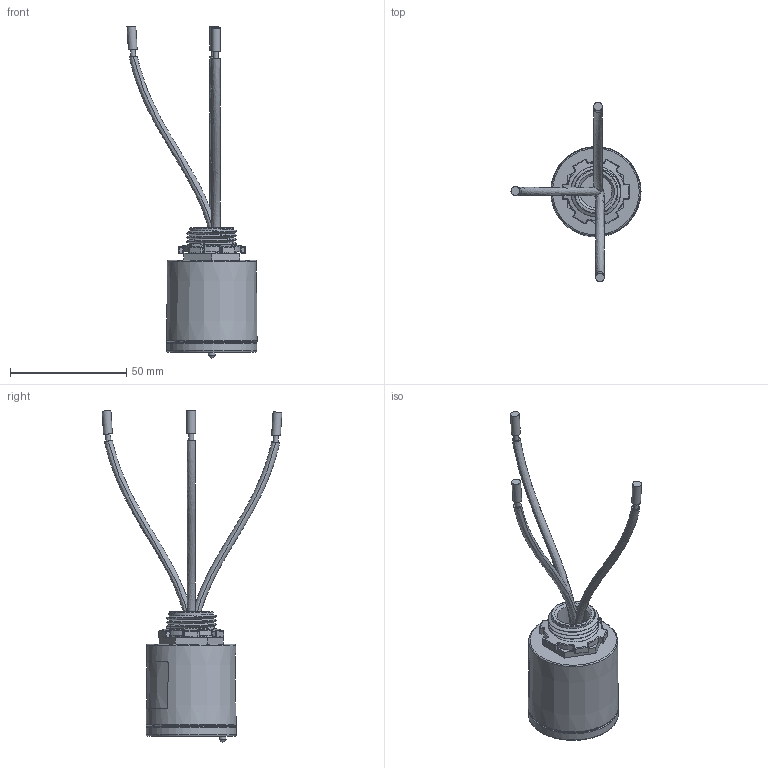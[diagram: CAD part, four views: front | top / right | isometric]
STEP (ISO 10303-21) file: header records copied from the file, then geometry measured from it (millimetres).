
FILE_DESCRIPTION(/* description */ ('Unknown'),/* implementation_level */ '2;1');
FILE_NAME(/* name */ 'SD10C120&240',/* time_stamp */ '2023-04-11T11:12:49+08:00',/* author */ ('Unknown'),/* organization */ ('Unknown'),/* preprocessor_version */ 'ST-DEVELOPER v16.7',/* originating_system */ 'Solid Edge',/* authorisation */ 'Unknown');
FILE_SCHEMA (('AUTOMOTIVE_DESIGN {1 0 10303 214 3 1 1}'));
Length unit declared in the file: millimetre
Products named in the file (1): SD10C120&240
Bounding box: 56.03 x 77.41 x 142.99 mm (x, y, z)
Volume: 16674.5 mm3; surface area: 19040.9 mm2
Topology: 2 solids, 3 shells, 291 faces, 749 edges, 461 vertices
Faces by surface type: cylinder 80, plane 76, torus 61, bspline 45, sphere 22, cone 7
Full cylindrical faces by diameter (mm): 0.5 x2, 2.1 x4, 2.9 x1, 3 x1, 3.8 x3, 14 x1, 19 x2, 33 x1, 34.199 x1, 37.6 x2, 38.799 x1
Entity records: 12722 total; most frequent: CARTESIAN_POINT 4575, ORIENTED_EDGE 1342, DIRECTION 1258, EDGE_CURVE 671, AXIS2_PLACEMENT_3D 566, VERTEX_POINT 438, FACE_BOUND 341, EDGE_LOOP 340
